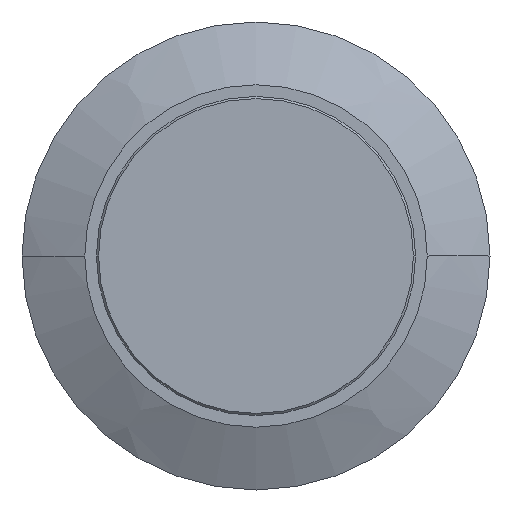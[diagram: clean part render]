
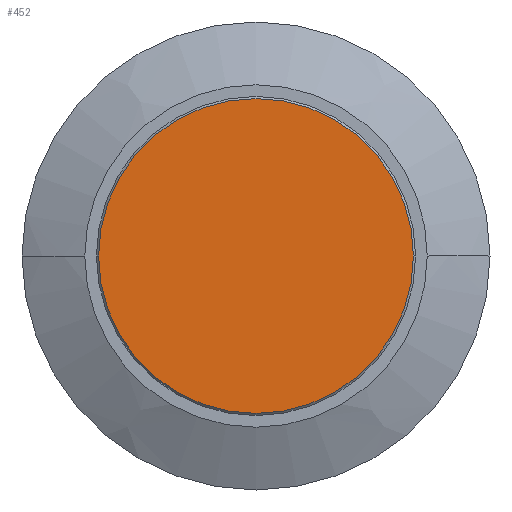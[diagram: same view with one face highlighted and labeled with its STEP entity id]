
A CAD part, left-side view. The second image highlights one B-rep face of the part: STEP entity #452.
In plain terms, the highlighted planar face has unit normal (-1, 0, 0).
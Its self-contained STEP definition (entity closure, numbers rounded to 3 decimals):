
#141=CARTESIAN_POINT('',(-17.66,0.,0.));
#142=DIRECTION('',(1.,0.,0.));
#143=DIRECTION('',(0.,-1.,0.));
#144=AXIS2_PLACEMENT_3D('',#141,#142,#143);
#146=CARTESIAN_POINT('',(-17.66,0.,0.));
#147=DIRECTION('',(1.,0.,0.));
#148=DIRECTION('',(0.,0.,-1.));
#149=AXIS2_PLACEMENT_3D('',#146,#147,#148);
#151=CARTESIAN_POINT('',(-17.66,0.,0.));
#152=DIRECTION('',(1.,0.,0.));
#153=DIRECTION('',(0.,1.,0.));
#154=AXIS2_PLACEMENT_3D('',#151,#152,#153);
#156=CARTESIAN_POINT('',(-17.66,0.,0.));
#157=DIRECTION('',(1.,0.,0.));
#158=DIRECTION('',(0.,0.,1.));
#159=AXIS2_PLACEMENT_3D('',#156,#157,#158);
#195=CARTESIAN_POINT('',(-17.66,7.4,0.));
#196=VERTEX_POINT('',#195);
#197=CARTESIAN_POINT('',(-17.66,-7.4,0.));
#198=CARTESIAN_POINT('',(-17.66,0.,-7.4));
#199=VERTEX_POINT('',#197);
#200=VERTEX_POINT('',#198);
#203=CARTESIAN_POINT('',(-17.66,0.,7.4));
#204=VERTEX_POINT('',#203);
#441=CARTESIAN_POINT('',(-17.66,0.,0.));
#442=DIRECTION('',(1.,0.,0.));
#443=DIRECTION('',(0.,-1.,0.));
#444=AXIS2_PLACEMENT_3D('',#441,#442,#443);
#445=PLANE('',#444);
#446=ORIENTED_EDGE('',*,*,#416,.T.);
#447=ORIENTED_EDGE('',*,*,#414,.T.);
#448=ORIENTED_EDGE('',*,*,#435,.T.);
#449=ORIENTED_EDGE('',*,*,#433,.T.);
#450=EDGE_LOOP('',(#446,#447,#448,#449));
#451=FACE_OUTER_BOUND('',#450,.F.);
#452=ADVANCED_FACE('',(#451),#445,.F.);
#145=CIRCLE('',#144,7.4);
#150=CIRCLE('',#149,7.4);
#155=CIRCLE('',#154,7.4);
#160=CIRCLE('',#159,7.4);
#414=EDGE_CURVE('',#200,#196,#150,.T.);
#416=EDGE_CURVE('',#199,#200,#145,.T.);
#433=EDGE_CURVE('',#204,#199,#160,.T.);
#435=EDGE_CURVE('',#196,#204,#155,.T.);
